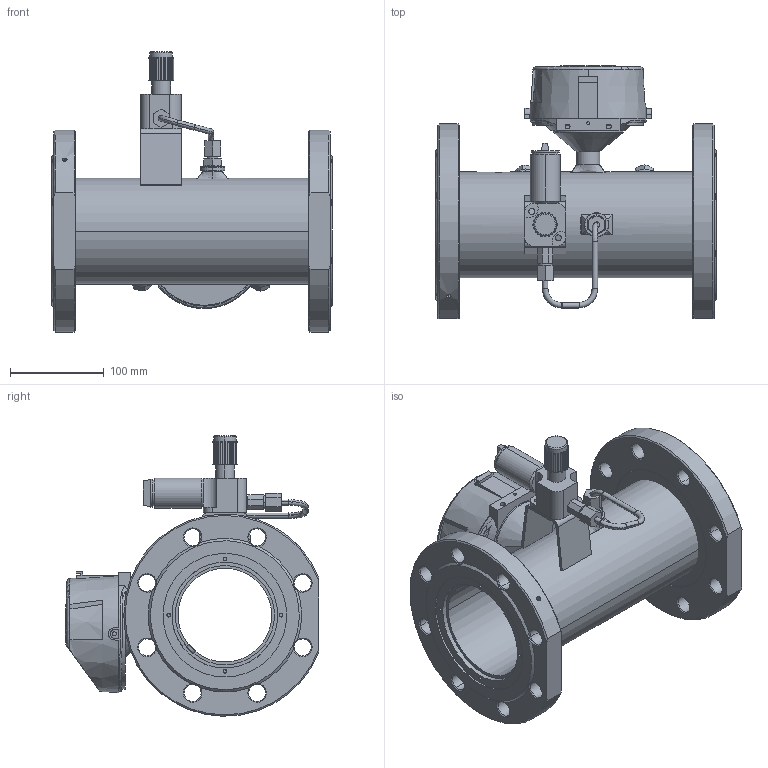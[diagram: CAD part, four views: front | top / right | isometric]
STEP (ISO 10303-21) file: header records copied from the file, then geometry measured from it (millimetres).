
FILE_DESCRIPTION((''),'2;1');
FILE_NAME('12345_02_ASM','2020-11-24T',('solovki'),(''),'CREO PARAMETRIC BY PTC INC, 2018360','CREO PARAMETRIC BY PTC INC, 2018360','');
FILE_SCHEMA(('AUTOMOTIVE_DESIGN { 1 0 10303 214 1 1 1 1 }'));
Length unit declared in the file: millimetre
Products named in the file (17): 102_AF3; 103_AF1; 104_AF1; 105_AF1; 106_AF1; 107_AF1; 107_AF0; 108; 101_AF1_ASM; 109; 110; 111; 112; 113; 114; 115; 12345_02_ASM
Assembly tree (18 placements, depth 3):
  12345_02_ASM
    101_AF1_ASM
      102_AF3
      103_AF1
      104_AF1
      105_AF1
      106_AF1
      107_AF1
      107_AF0
      108
    109
    110
    111
    112  x2
    113  x2
    114
    115
Bounding box: 300 x 270.24 x 299.58 mm (x, y, z)
Volume: 2493879.2 mm3; surface area: 540714.6 mm2
Topology: 17 solids, 36 shells, 816 faces, 2016 edges, 1249 vertices
Faces by surface type: cylinder 332, plane 250, cone 171, bspline 26, sphere 22, torus 15
Entity records: 37325 total; most frequent: CARTESIAN_POINT 6753, DIRECTION 4080, ORIENTED_EDGE 3642, PRESENTATION_STYLE_ASSIGNMENT 2654, STYLED_ITEM 2648, CURVE_STYLE 1876, EDGE_CURVE 1876, AXIS2_PLACEMENT_3D 1613
